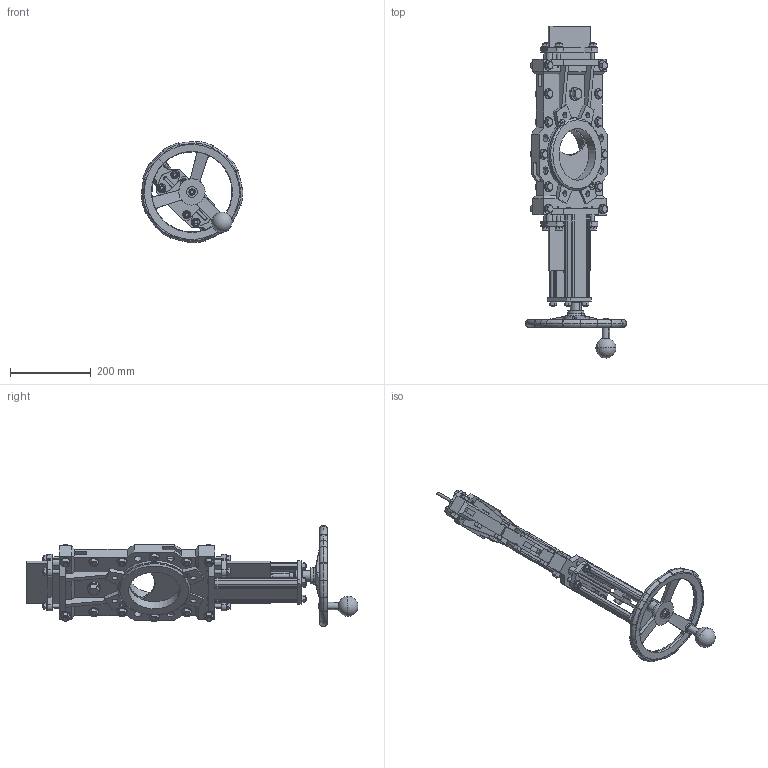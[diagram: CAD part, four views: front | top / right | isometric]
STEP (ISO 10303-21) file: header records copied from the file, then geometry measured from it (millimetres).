
FILE_DESCRIPTION(('STEP AP203'),'1');
FILE_NAME('G:/KONSTRUK/3-d block för CD/HG VALVE/HAND WHEEL/HG125-PN10-HW.stp','2012-12-03T09:13:16',(' '),(' '),'Spatial InterOp 3D',' ',' ');
FILE_SCHEMA(('CONFIG_CONTROL_DESIGN'));
Length unit declared in the file: millimetre
Products named in the file (1): 1
Bounding box: 251.47 x 821.31 x 251.47 mm (x, y, z)
Volume: 3733530.5 mm3; surface area: 972049.9 mm2
Topology: 1 solids, 20 shells, 2184 faces, 5274 edges, 3333 vertices
Faces by surface type: plane 811, cone 713, cylinder 604, torus 46, bspline 8, sphere 2
Entity records: 70164 total; most frequent: CARTESIAN_POINT 18972, DIRECTION 10893, ORIENTED_EDGE 10524, EDGE_CURVE 5262, AXIS2_PLACEMENT_3D 4409, VERTEX_POINT 3333, EDGE_LOOP 2491, CIRCLE 2219
